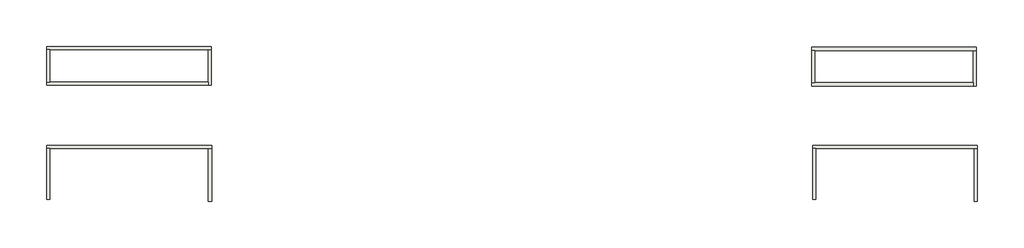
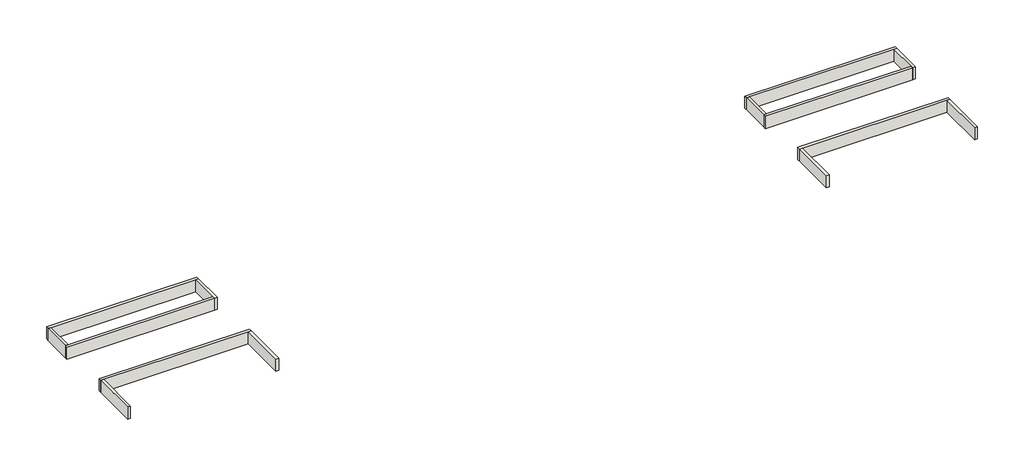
# One storey: 14 walls.
"""IFC4 building model written with IfcOpenShell, lengths in millimetres."""

from ifc_helpers import new_model, si_unit, origin, origin_with_axes, place, context, project, spatial, polyline, outline, extrude, faceted_brep, element, save

model = new_model("IFC4")

# Units and contexts
model_context = context("Model", 3, world=origin())
ifc_project = project(units=[si_unit("LENGTHUNIT", "METRE", prefix="MILLI")], contexts=[model_context])

# Site, building, storey
site = spatial("IfcSite", under=ifc_project)
building = spatial("IfcBuilding", under=site)
storey = spatial("IfcBuildingStorey", under=building, Name="Implantação- Impermeabilização", Elevation=0.0)

# Walls
placement = place(None, origin())
element("IfcWall", 1, ObjectType="Impermeabilização 08 - Áreas frias", at=placement, inside=storey, context=model_context, shape_type="Brep", body=[
    faceted_brep([(8390.3833533, 7911.6581782, 0.0), (8455.3833533, 7911.6581782, 0.0), (11850.3833533, 7911.6581782, 0.0), (11915.3833533, 7911.6581782, 0.0), (11915.3833533, 7911.6581782, 300.0), (11850.3833533, 7911.6581782, 300.0), (8455.3833533, 7911.6581782, 300.0), (8390.3833533, 7911.6581782, 300.0), (8390.3833533, 7976.6581782, 0.0), (8390.3833533, 7976.6581782, 300.0), (11915.3833533, 7976.6581782, 300.0), (11915.3833533, 7976.6581782, 0.0)], [[[0, 1, 2, 3, 4, 5, 6, 7]], [[8, 9, 10, 11]], [[3, 2, 1, 0, 8, 11]], [[7, 6, 5, 4, 10, 9]], [[4, 3, 11, 10]], [[0, 7, 9, 8]]]),
])
element("IfcWall", 2, ObjectType="Impermeabilização 08 - Áreas frias", at=placement, inside=storey, context=model_context, shape_type="Brep", body=[
    faceted_brep([(11850.3833533, 7911.6581782, 0.0), (11850.3833533, 7216.6581782, 0.0), (11850.3833533, 7151.6581782, 0.0), (11850.3833533, 7151.6581782, 300.0), (11850.3833533, 7216.6581782, 300.0), (11850.3833533, 7911.6581782, 300.0), (11915.3833533, 7911.6581782, 0.0), (11915.3833533, 7911.6581782, 300.0), (11915.3833533, 7151.6581782, 300.0), (11915.3833533, 7151.6581782, 0.0)], [[[0, 1, 2, 3, 4, 5]], [[6, 7, 8, 9]], [[2, 1, 0, 6, 9]], [[5, 4, 3, 8, 7]], [[0, 5, 7, 6]], [[3, 2, 9, 8]]]),
])
element("IfcWall", 3, ObjectType="Impermeabilização 08 - Áreas frias", at=placement, inside=storey, context=model_context, shape_type="Brep", body=[
    faceted_brep([(11850.3833533, 7216.6581782, 0.0), (8455.3833533, 7216.6581782, 0.0), (8390.3833533, 7216.6581782, 0.0), (8390.3833533, 7216.6581782, 300.0), (8455.3833533, 7216.6581782, 300.0), (11850.3833533, 7216.6581782, 300.0), (11850.3833533, 7151.6581782, 0.0), (11850.3833533, 7151.6581782, 300.0), (8390.3833533, 7151.6581782, 300.0), (8390.3833533, 7151.6581782, 0.0)], [[[0, 1, 2, 3, 4, 5]], [[6, 7, 8, 9]], [[2, 1, 0, 6, 9]], [[5, 4, 3, 8, 7]], [[0, 5, 7, 6]], [[3, 2, 9, 8]]]),
])
element("IfcWall", 4, ObjectType="Impermeabilização 08 - Áreas frias", at=placement, inside=storey, context=model_context, shape_type="SweptSolid", body=[
    extrude(outline(polyline([(8455.3833533, 7911.6581782), (8455.3833533, 7216.6581782), (8390.3833533, 7216.6581782), (8390.3833533, 7911.6581782), (8455.3833533, 7911.6581782)])), origin_with_axes(), (0.0, 0.0, 1.0), 300.0),
])
element("IfcWall", 5, ObjectType="Impermeabilização 08 - Áreas frias", at=placement, inside=storey, context=model_context, shape_type="Brep", body=[
    faceted_brep([(8417.860236, 5803.0105422, 0.0), (8482.860236, 5803.0105422, 0.0), (11877.860236, 5803.0105422, 0.0), (11942.860236, 5803.0105422, 0.0), (11942.860236, 5803.0105422, 300.0), (11877.860236, 5803.0105422, 300.0), (8482.860236, 5803.0105422, 300.0), (8417.860236, 5803.0105422, 300.0), (8417.860236, 5868.0105422, 0.0), (8417.860236, 5868.0105422, 300.0), (11942.860236, 5868.0105422, 300.0), (11942.860236, 5868.0105422, 0.0)], [[[0, 1, 2, 3, 4, 5, 6, 7]], [[8, 9, 10, 11]], [[3, 2, 1, 0, 8, 11]], [[7, 6, 5, 4, 10, 9]], [[4, 3, 11, 10]], [[0, 7, 9, 8]]]),
])
element("IfcWall", 6, ObjectType="Impermeabilização 08 - Áreas frias", at=placement, inside=storey, context=model_context, shape_type="SweptSolid", body=[
    extrude(outline(polyline([(11877.860236, 4675.5105422), (11877.860236, 5803.0105422), (11942.860236, 5803.0105422), (11942.860236, 4675.5105422), (11877.860236, 4675.5105422)])), origin_with_axes(), (0.0, 0.0, 1.0), 300.0),
])
element("IfcWall", 7, ObjectType="Impermeabilização 08 - Áreas frias", at=placement, inside=storey, context=model_context, shape_type="SweptSolid", body=[
    extrude(outline(polyline([(8482.860236, 5803.0105422), (8482.860236, 4715.5105422), (8417.860236, 4715.5105422), (8417.860236, 5803.0105422), (8482.860236, 5803.0105422)])), origin_with_axes(), (0.0, 0.0, 1.0), 300.0),
])
element("IfcWall", 8, ObjectType="Impermeabilização 08 - Áreas frias", at=placement, inside=storey, context=model_context, shape_type="Brep", body=[
    faceted_brep([(-7982.139764, 5803.0105422, 0.0), (-7917.139764, 5803.0105422, 0.0), (-4522.139764, 5803.0105422, 0.0), (-4457.139764, 5803.0105422, 0.0), (-4457.139764, 5803.0105422, 300.0), (-4522.139764, 5803.0105422, 300.0), (-7917.139764, 5803.0105422, 300.0), (-7982.139764, 5803.0105422, 300.0), (-7982.139764, 5868.0105422, 0.0), (-7982.139764, 5868.0105422, 300.0), (-4457.139764, 5868.0105422, 300.0), (-4457.139764, 5868.0105422, 0.0)], [[[0, 1, 2, 3, 4, 5, 6, 7]], [[8, 9, 10, 11]], [[3, 2, 1, 0, 8, 11]], [[7, 6, 5, 4, 10, 9]], [[4, 3, 11, 10]], [[0, 7, 9, 8]]]),
])
element("IfcWall", 9, ObjectType="Impermeabilização 08 - Áreas frias", at=placement, inside=storey, context=model_context, shape_type="SweptSolid", body=[
    extrude(outline(polyline([(-4522.139764, 4675.5105422), (-4522.139764, 5803.0105422), (-4457.139764, 5803.0105422), (-4457.139764, 4675.5105422), (-4522.139764, 4675.5105422)])), origin_with_axes(), (0.0, 0.0, 1.0), 300.0),
])
element("IfcWall", 10, ObjectType="Impermeabilização 08 - Áreas frias", at=placement, inside=storey, context=model_context, shape_type="SweptSolid", body=[
    extrude(outline(polyline([(-7917.139764, 5803.0105422), (-7917.139764, 4715.5105422), (-7982.139764, 4715.5105422), (-7982.139764, 5803.0105422), (-7917.139764, 5803.0105422)])), origin_with_axes(), (0.0, 0.0, 1.0), 300.0),
])
element("IfcWall", 11, ObjectType="Impermeabilização 08 - Áreas frias", at=placement, inside=storey, context=model_context, shape_type="Brep", body=[
    faceted_brep([(-7989.6166467, 7931.6581782, 0.0), (-7924.6166467, 7931.6581782, 0.0), (-4529.6166467, 7931.6581782, 0.0), (-4464.6166467, 7931.6581782, 0.0), (-4464.6166467, 7931.6581782, 300.0), (-4529.6166467, 7931.6581782, 300.0), (-7924.6166467, 7931.6581782, 300.0), (-7989.6166467, 7931.6581782, 300.0), (-7989.6166467, 7996.6581782, 0.0), (-7989.6166467, 7996.6581782, 300.0), (-4464.6166467, 7996.6581782, 300.0), (-4464.6166467, 7996.6581782, 0.0)], [[[0, 1, 2, 3, 4, 5, 6, 7]], [[8, 9, 10, 11]], [[3, 2, 1, 0, 8, 11]], [[7, 6, 5, 4, 10, 9]], [[4, 3, 11, 10]], [[0, 7, 9, 8]]]),
])
element("IfcWall", 12, ObjectType="Impermeabilização 08 - Áreas frias", at=placement, inside=storey, context=model_context, shape_type="Brep", body=[
    faceted_brep([(-4529.6166467, 7931.6581782, 0.0), (-4529.6166467, 7236.6581782, 0.0), (-4529.6166467, 7171.6581782, 0.0), (-4529.6166467, 7171.6581782, 300.0), (-4529.6166467, 7236.6581782, 300.0), (-4529.6166467, 7931.6581782, 300.0), (-4464.6166467, 7931.6581782, 0.0), (-4464.6166467, 7931.6581782, 300.0), (-4464.6166467, 7171.6581782, 300.0), (-4464.6166467, 7171.6581782, 0.0)], [[[0, 1, 2, 3, 4, 5]], [[6, 7, 8, 9]], [[2, 1, 0, 6, 9]], [[5, 4, 3, 8, 7]], [[0, 5, 7, 6]], [[3, 2, 9, 8]]]),
])
element("IfcWall", 13, ObjectType="Impermeabilização 08 - Áreas frias", at=placement, inside=storey, context=model_context, shape_type="Brep", body=[
    faceted_brep([(-4529.6166467, 7236.6581782, 0.0), (-7924.6166467, 7236.6581782, 0.0), (-7989.6166467, 7236.6581782, 0.0), (-7989.6166467, 7236.6581782, 300.0), (-7924.6166467, 7236.6581782, 300.0), (-4529.6166467, 7236.6581782, 300.0), (-4529.6166467, 7171.6581782, 0.0), (-4529.6166467, 7171.6581782, 300.0), (-7989.6166467, 7171.6581782, 300.0), (-7989.6166467, 7171.6581782, 0.0)], [[[0, 1, 2, 3, 4, 5]], [[6, 7, 8, 9]], [[2, 1, 0, 6, 9]], [[5, 4, 3, 8, 7]], [[0, 5, 7, 6]], [[3, 2, 9, 8]]]),
])
element("IfcWall", 14, ObjectType="Impermeabilização 08 - Áreas frias", at=placement, inside=storey, context=model_context, shape_type="SweptSolid", body=[
    extrude(outline(polyline([(-7924.6166467, 7931.6581782), (-7924.6166467, 7236.6581782), (-7989.6166467, 7236.6581782), (-7989.6166467, 7931.6581782), (-7924.6166467, 7931.6581782)])), origin_with_axes(), (0.0, 0.0, 1.0), 300.0),
])

save(model, "model.ifc")
